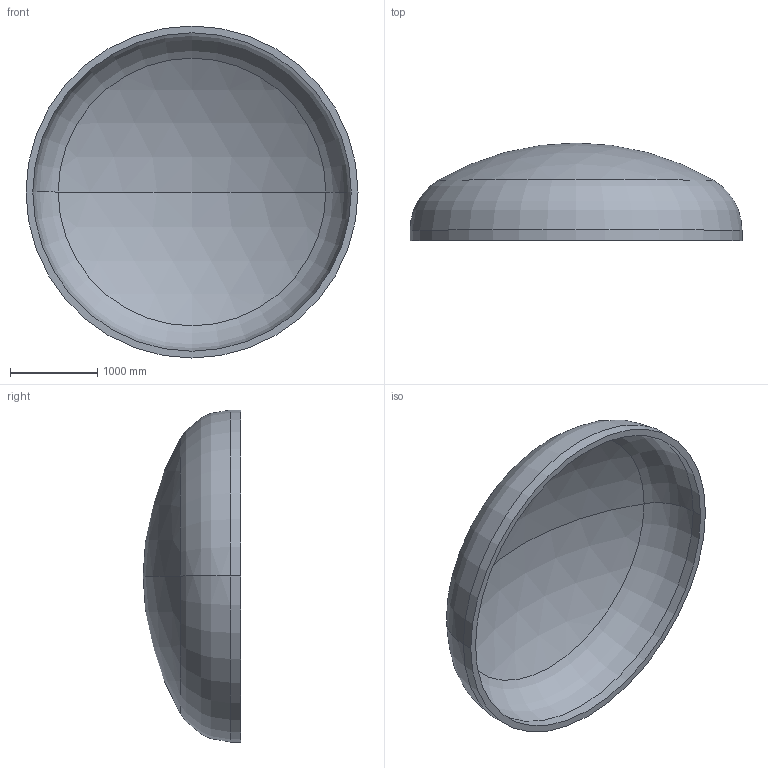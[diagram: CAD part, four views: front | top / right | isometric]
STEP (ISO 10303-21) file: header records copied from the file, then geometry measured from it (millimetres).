
FILE_DESCRIPTION (( 'STEP AP203' ), '1' );
FILE_NAME ('DIN 28013 Korbbogenform_-_Boden DIN 28013 - 3800 x 120 - I - s=78.step', '2016-07-01T21:40:12', ( '' ), ( '' ), 'SwSTEP 2.0', 'SolidWorks 2013', '' );
FILE_SCHEMA (( 'CONFIG_CONTROL_DESIGN' ));
Length unit declared in the file: millimetre
Products named in the file (1): DIN 28013 Korbbogenform_-_Boden DIN 28013 - 3800 x 120 - I - s=78
Bounding box: 3800 x 1117.42 x 3800 mm (x, y, z)
Volume: 1301884647.8 mm3; surface area: 34306442.9 mm2
Topology: 1 solids, 1 shells, 13 faces, 24 edges, 14 vertices
Faces by surface type: torus 4, cylinder 4, sphere 4, plane 1
Entity records: 407 total; most frequent: DIRECTION 72, CARTESIAN_POINT 52, ORIENTED_EDGE 48, AXIS2_PLACEMENT_3D 34, EDGE_CURVE 24, CIRCLE 20, VERTEX_POINT 14, EDGE_LOOP 14
